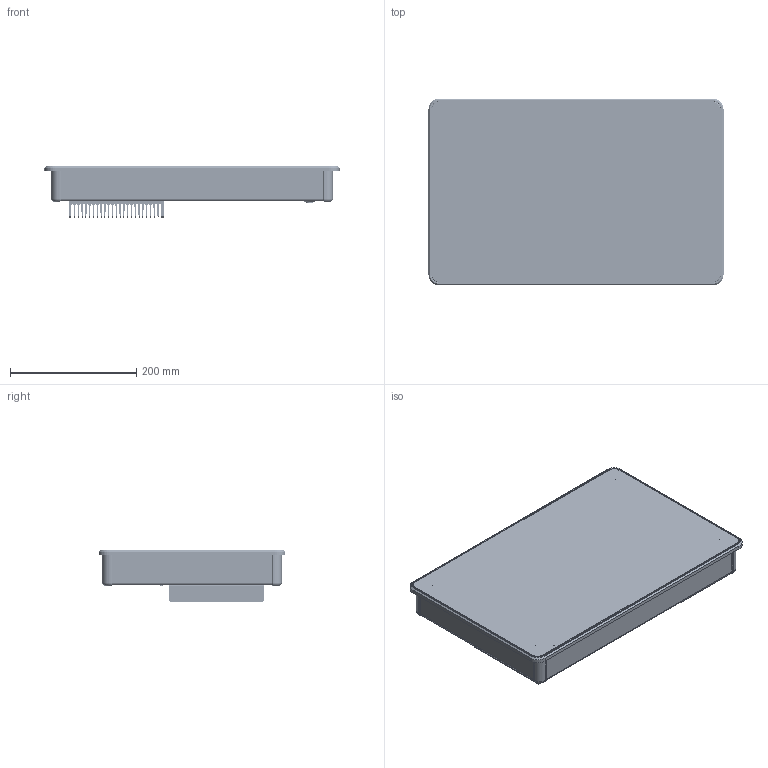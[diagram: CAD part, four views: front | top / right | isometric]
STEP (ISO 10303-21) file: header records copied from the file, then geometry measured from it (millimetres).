
FILE_DESCRIPTION(/* description */ (''),/* implementation_level */ '2;1');
FILE_NAME(/* name */ 'C:\SAPInventorWork\778-41960-00_EXTERN.stp',/* time_stamp */ '2024-05-08T13:43:29+02:00',/* author */ ('Aiple'),/* organization */ (''),/* preprocessor_version */ 'ST-DEVELOPER v18.1',/* originating_system */ 'Autodesk Inventor 2021',/* authorisation */ '');
FILE_SCHEMA (('AUTOMOTIVE_DESIGN { 1 0 10303 214 3 1 1 }'));
Products named in the file (1): 778-41960-00
Bounding box: 466.5 x 295.6 x 82.8 mm (x, y, z)
Volume: 6592616.6 mm3; surface area: 617144.9 mm2
Topology: 1 solids, 83 shells, 9086 faces, 26310 edges, 17330 vertices
Faces by surface type: plane 5731, cylinder 1940, bspline 1044, cone 306, torus 44, sphere 21
Full cylindrical faces by diameter (mm): 0.457 x1, 0.5 x18, 0.6 x2, 2.156 x2, 2.2 x2, 2.459 x22, 2.5 x2, 2.794 x2, 2.8 x6, 2.9 x2, 2.91 x3, 3 x12, 3.01 x1, 3.2 x2, 3.242 x6, 3.5 x8, 3.8 x2, 4 x6, 4.1 x2, 4.22 x12, 4.3 x12, 4.5 x8, 4.7 x2, 4.767 x6, 4.8 x2, 4.917 x4, 5 x7, 5.1 x2, 5.2 x1, 5.3 x2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
Entity records: 324335 total; most frequent: CARTESIAN_POINT 81236, ORIENTED_EDGE 51088, DIRECTION 43724, EDGE_CURVE 26285, LINE 18742, VECTOR 18742, VERTEX_POINT 17330, AXIS2_PLACEMENT_3D 12491
